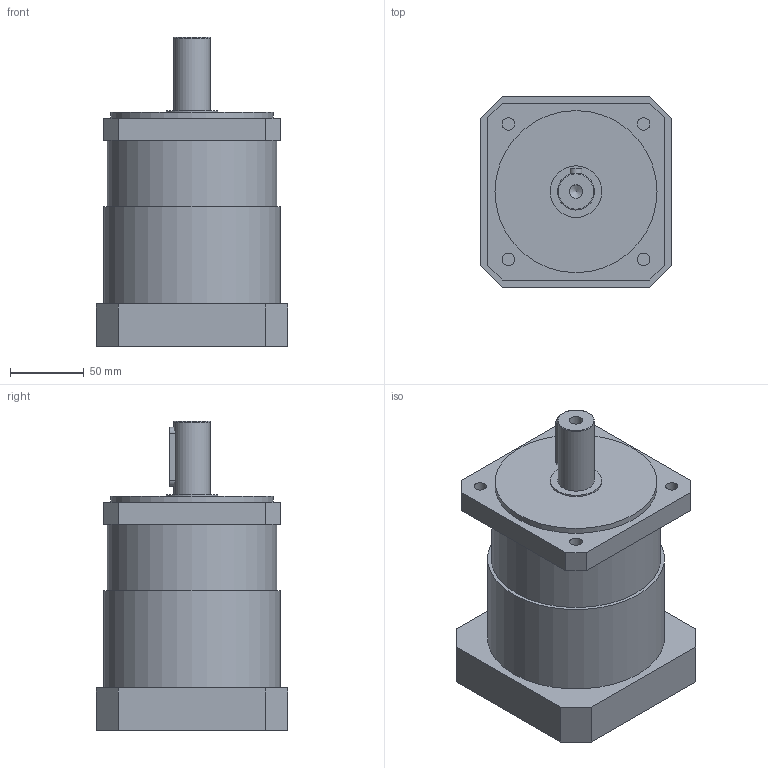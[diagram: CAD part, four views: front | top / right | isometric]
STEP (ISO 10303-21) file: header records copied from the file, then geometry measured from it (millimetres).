
FILE_DESCRIPTION(/* description */ (''),/* implementation_level */ '2;1');
FILE_NAME(/* name */ '120 1jijiansu w85 MM.stp',/* time_stamp */ '2018-08-30T15:07:41+08:00',/* author */ (''),/* organization */ (''),/* preprocessor_version */ 'ST-DEVELOPER v11',/* originating_system */ 'SIEMENS UGS NX 6.0',/* authorisation */ '');
FILE_SCHEMA (('CONFIG_CONTROL_DESIGN'));
Length unit declared in the file: millimetre
Products named in the file (1): 120 1jijiansu L 155 MM
Bounding box: 130 x 130 x 210 mm (x, y, z)
Volume: 1897351.9 mm3; surface area: 120783.5 mm2
Topology: 2 solids, 2 shells, 58 faces, 136 edges, 92 vertices
Faces by surface type: plane 32, cylinder 20, cone 5, torus 1
Full cylindrical faces by diameter (mm): 7.2 x4, 8.5 x4, 9 x1, 19 x1, 25 x1, 35 x1, 64 x1, 70.6 x1, 85 x1, 110 x1, 115 x1, 120 x1
Entity records: 1538 total; most frequent: DIRECTION 256, CARTESIAN_POINT 238, ORIENTED_EDGE 194, EDGE_LOOP 100, AXIS2_PLACEMENT_3D 100, EDGE_CURVE 97, FACE_BOUND 82, VERTEX_POINT 82
